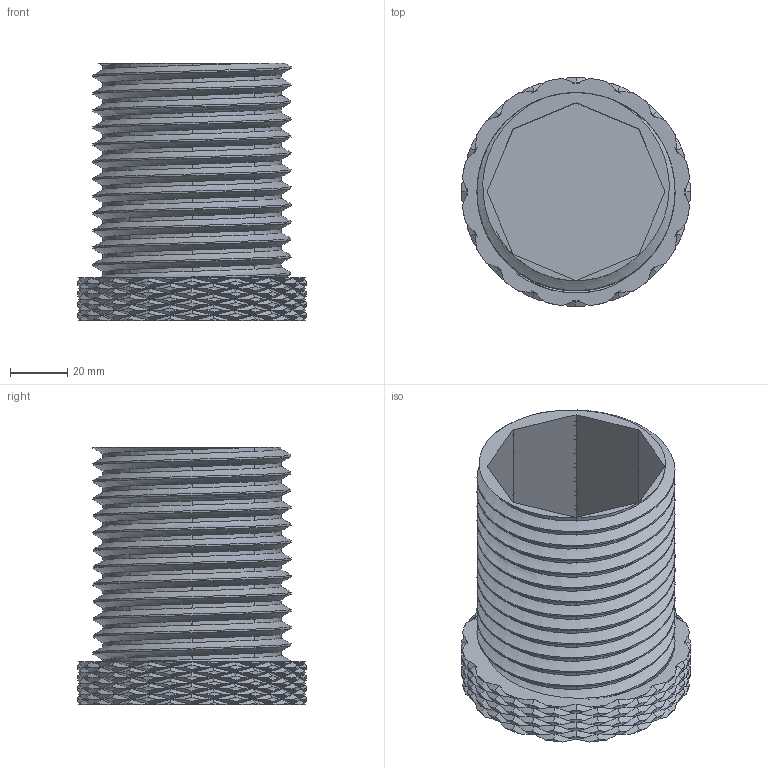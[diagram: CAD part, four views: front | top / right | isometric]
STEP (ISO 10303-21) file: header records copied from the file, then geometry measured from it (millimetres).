
FILE_DESCRIPTION(/* description */ (''),/* implementation_level */ '2;1');
FILE_NAME(/* name */ 'c:\worker\convert-fusion-r03\tmp\job-1\439\output\files\86c75f08-c85a-4d9e-ae71-033882cf1208\10c99f56-2789-4c4b-ad76-a674c939a53d.stp',/* time_stamp */ '2022-05-06T19:13:57Z',/* author */ (''),/* organization */ (''),/* preprocessor_version */ 'ST-DEVELOPER v19',/* originating_system */ 'Autodesk Translation Framework v11.7.0.108',/* authorisation */ '');
FILE_SCHEMA (('AUTOMOTIVE_DESIGN { 1 0 10303 214 3 1 1 }'));
Products named in the file (1): Fidget Pencil Holder
Bounding box: 80 x 80 x 90 mm (x, y, z)
Volume: 85134.8 mm3; surface area: 69682.3 mm2
Topology: 2 solids, 2 shells, 713 faces, 1501 edges, 794 vertices
Faces by surface type: bspline 516, cylinder 183, plane 14
Full cylindrical faces by diameter (mm): 62.336 x14, 63.905 x1, 69.22 x13, 70 x1, 70.621 x2
Entity records: 36026 total; most frequent: CARTESIAN_POINT 25426, ORIENTED_EDGE 3002, EDGE_CURVE 1501, B_SPLINE_CURVE_WITH_KNOTS 1368, VERTEX_POINT 794, EDGE_LOOP 717, FACE_OUTER_BOUND 713, ADVANCED_FACE 713
